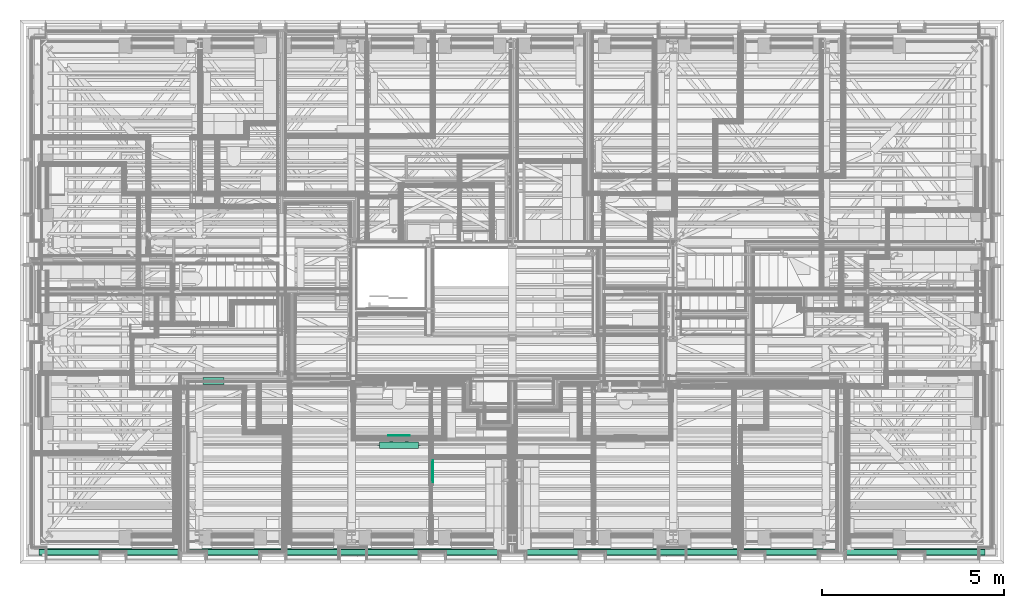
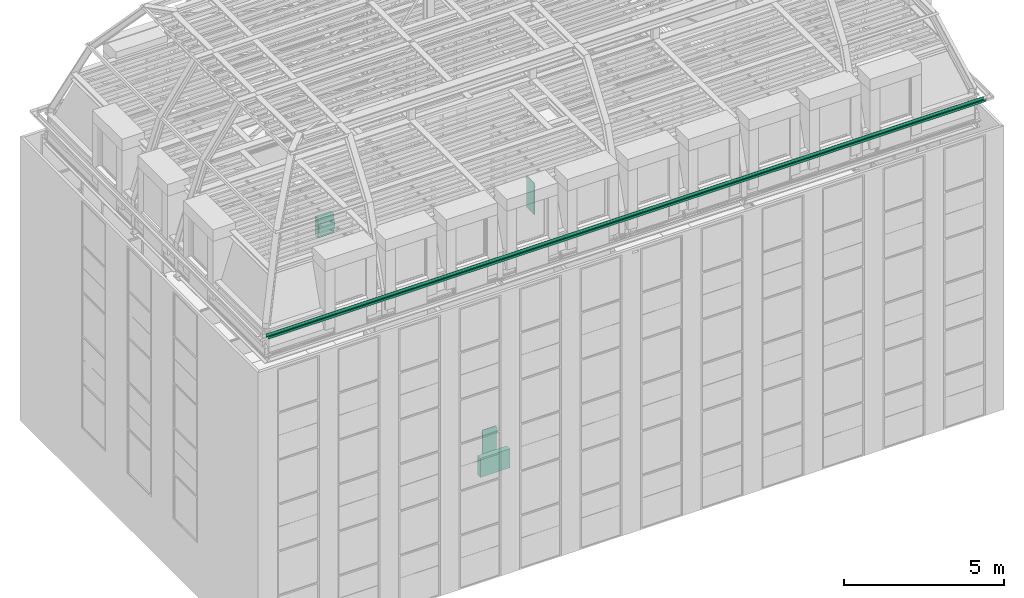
# One storey, part 160 of 183: 4 flow terminals, 1 flow fitting.
"""IFC2X3 building model written with IfcOpenShell, lengths in metres."""

from ifc_helpers import new_model, entity, si_unit, converted_unit, derived_unit, money_unit, direction, frame, origin_with_axes, place, context, subcontext, project, spatial, open_shell, faceted_brep, surface_model, material, type_object, element, save


model = new_model("IFC2X3")

# Units and contexts
model_context = context("Model", 3, precision=1e-05, world=origin_with_axes(), true_north=direction((0.0, 1.0)))
body_context = subcontext(model_context, "Body", "Model", "MODEL_VIEW", scale=1.0)
ifc_project = project(units=[si_unit("LENGTHUNIT", "METRE"), si_unit("AREAUNIT", "SQUARE_METRE"), si_unit("VOLUMEUNIT", "CUBIC_METRE"), si_unit("ABSORBEDDOSEUNIT", "GRAY"), si_unit("AMOUNTOFSUBSTANCEUNIT", "MOLE"), si_unit("DOSEEQUIVALENTUNIT", "SIEVERT"), si_unit("ELECTRICCAPACITANCEUNIT", "FARAD"), si_unit("ELECTRICCHARGEUNIT", "COULOMB"), si_unit("ELECTRICCONDUCTANCEUNIT", "SIEMENS"), si_unit("ELECTRICCURRENTUNIT", "AMPERE"), si_unit("ELECTRICRESISTANCEUNIT", "OHM"), si_unit("ELECTRICVOLTAGEUNIT", "VOLT"), si_unit("ENERGYUNIT", "JOULE"), si_unit("FORCEUNIT", "NEWTON"), si_unit("FREQUENCYUNIT", "HERTZ"), si_unit("ILLUMINANCEUNIT", "LUX"), si_unit("INDUCTANCEUNIT", "HENRY"), si_unit("LUMINOUSFLUXUNIT", "LUMEN"), si_unit("LUMINOUSINTENSITYUNIT", "CANDELA"), si_unit("MAGNETICFLUXDENSITYUNIT", "TESLA"), si_unit("MAGNETICFLUXUNIT", "WEBER"), si_unit("MASSUNIT", "GRAM"), converted_unit("PLANEANGLEUNIT", "degree", entity("IfcReal", 0.0174532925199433), si_unit("PLANEANGLEUNIT", "RADIAN"), dimensions=[0, 0, 0, 0, 0, 0, 0]), si_unit("POWERUNIT", "WATT"), si_unit("PRESSUREUNIT", "PASCAL"), si_unit("RADIOACTIVITYUNIT", "BECQUEREL"), si_unit("SOLIDANGLEUNIT", "STERADIAN"), si_unit("THERMODYNAMICTEMPERATUREUNIT", "KELVIN"), si_unit("TIMEUNIT", "SECOND"), derived_unit("ACCELERATIONUNIT", [(si_unit("LENGTHUNIT", "METRE"), 1), (si_unit("TIMEUNIT", "SECOND"), -2)]), derived_unit("ANGULARVELOCITYUNIT", [(converted_unit("PLANEANGLEUNIT", "degree", entity("IfcReal", 0.0174532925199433), si_unit("PLANEANGLEUNIT", "RADIAN"), dimensions=[0, 0, 0, 0, 0, 0, 0]), 1), (si_unit("TIMEUNIT", "SECOND"), -1)]), derived_unit("CURVATUREUNIT", [(converted_unit("PLANEANGLEUNIT", "degree", entity("IfcReal", 0.0174532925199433), si_unit("PLANEANGLEUNIT", "RADIAN"), dimensions=[0, 0, 0, 0, 0, 0, 0]), 1), (si_unit("LENGTHUNIT", "METRE"), -1)]), derived_unit("DYNAMICVISCOSITYUNIT", [(si_unit("PRESSUREUNIT", "PASCAL"), 1), (si_unit("TIMEUNIT", "SECOND"), 1)]), derived_unit("HEATFLUXDENSITYUNIT", [(si_unit("POWERUNIT", "WATT"), 1), (si_unit("LENGTHUNIT", "METRE"), -2)]), derived_unit("HEATINGVALUEUNIT", [(si_unit("ENERGYUNIT", "JOULE"), 1), (si_unit("MASSUNIT", "GRAM"), -1)]), derived_unit("INTEGERCOUNTRATEUNIT", [(si_unit("TIMEUNIT", "SECOND"), -1)]), derived_unit("IONCONCENTRATIONUNIT", [(si_unit("MASSUNIT", "GRAM"), 1), (si_unit("VOLUMEUNIT", "CUBIC_METRE"), -1)]), derived_unit("ISOTHERMALMOISTURECAPACITYUNIT", [(si_unit("VOLUMEUNIT", "CUBIC_METRE"), 1), (si_unit("MASSUNIT", "GRAM"), -1)]), derived_unit("KINEMATICVISCOSITYUNIT", [(si_unit("AREAUNIT", "SQUARE_METRE"), 1), (si_unit("TIMEUNIT", "SECOND"), -1)]), derived_unit("LINEARFORCEUNIT", [(si_unit("FORCEUNIT", "NEWTON"), 1), (si_unit("LENGTHUNIT", "METRE"), -1)]), derived_unit("LINEARMOMENTUNIT", [(si_unit("FORCEUNIT", "NEWTON"), 1), (si_unit("LENGTHUNIT", "METRE"), -1)]), derived_unit("LINEARSTIFFNESSUNIT", [(si_unit("FORCEUNIT", "NEWTON"), 1), (si_unit("LENGTHUNIT", "METRE"), -1)]), derived_unit("LINEARVELOCITYUNIT", [(si_unit("LENGTHUNIT", "METRE"), 1), (si_unit("TIMEUNIT", "SECOND"), -1)]), derived_unit("LUMINOUSINTENSITYDISTRIBUTIONUNIT", [(si_unit("LUMINOUSINTENSITYUNIT", "CANDELA"), 1), (si_unit("LUMINOUSFLUXUNIT", "LUMEN"), -1)]), derived_unit("MASSDENSITYUNIT", [(si_unit("MASSUNIT", "GRAM"), 1), (si_unit("VOLUMEUNIT", "CUBIC_METRE"), -1)]), derived_unit("MASSFLOWRATEUNIT", [(si_unit("MASSUNIT", "GRAM"), 1), (si_unit("TIMEUNIT", "SECOND"), -1)]), derived_unit("MASSPERLENGTHUNIT", [(si_unit("MASSUNIT", "GRAM"), 1), (si_unit("LENGTHUNIT", "METRE"), -1)]), derived_unit("MODULUSOFELASTICITYUNIT", [(si_unit("FORCEUNIT", "NEWTON"), 1), (si_unit("AREAUNIT", "SQUARE_METRE"), -1)]), derived_unit("MODULUSOFLINEARSUBGRADEREACTIONUNIT", [(si_unit("FORCEUNIT", "NEWTON"), 1), (si_unit("LENGTHUNIT", "METRE"), -2)]), derived_unit("MODULUSOFROTATIONALSUBGRADEREACTIONUNIT", [(si_unit("FORCEUNIT", "NEWTON"), 1), (si_unit("LENGTHUNIT", "METRE"), 1)]), derived_unit("MODULUSOFSUBGRADEREACTIONUNIT", [(si_unit("FORCEUNIT", "NEWTON"), 1), (si_unit("VOLUMEUNIT", "CUBIC_METRE"), -1)]), derived_unit("MOISTUREDIFFUSIVITYUNIT", [(si_unit("VOLUMEUNIT", "CUBIC_METRE"), 1), (si_unit("TIMEUNIT", "SECOND"), -1)]), derived_unit("MOLECULARWEIGHTUNIT", [(si_unit("MASSUNIT", "GRAM"), 1), (si_unit("AMOUNTOFSUBSTANCEUNIT", "MOLE"), -1)]), derived_unit("PLANARFORCEUNIT", [(si_unit("FORCEUNIT", "NEWTON"), 1), (si_unit("LENGTHUNIT", "METRE"), -2)]), derived_unit("ROTATIONALFREQUENCYUNIT", [(si_unit("TIMEUNIT", "SECOND"), -1)]), derived_unit("ROTATIONALMASSUNIT", [(si_unit("MASSUNIT", "GRAM"), 1), (si_unit("LENGTHUNIT", "METRE"), 2)]), derived_unit("ROTATIONALSTIFFNESSUNIT", [(si_unit("FORCEUNIT", "NEWTON"), 1), (si_unit("LENGTHUNIT", "METRE"), 1), (converted_unit("PLANEANGLEUNIT", "degree", entity("IfcReal", 0.0174532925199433), si_unit("PLANEANGLEUNIT", "RADIAN"), dimensions=[0, 0, 0, 0, 0, 0, 0]), -1)]), derived_unit("SECTIONAREAINTEGRALUNIT", [(si_unit("LENGTHUNIT", "METRE"), 5)]), derived_unit("SECTIONMODULUSUNIT", [(si_unit("LENGTHUNIT", "METRE"), 3)]), derived_unit("SHEARMODULUSUNIT", [(si_unit("FORCEUNIT", "NEWTON"), 1), (si_unit("AREAUNIT", "SQUARE_METRE"), -1)]), derived_unit("SOUNDPOWERUNIT", [(si_unit("ENERGYUNIT", "JOULE"), 1), (si_unit("TIMEUNIT", "SECOND"), -1)]), derived_unit("SPECIFICHEATCAPACITYUNIT", [(si_unit("FORCEUNIT", "NEWTON"), 1), (si_unit("MASSUNIT", "GRAM"), -1), (si_unit("THERMODYNAMICTEMPERATUREUNIT", "KELVIN"), -1)]), derived_unit("TEMPERATUREGRADIENTUNIT", [(si_unit("THERMODYNAMICTEMPERATUREUNIT", "KELVIN"), 1), (si_unit("LENGTHUNIT", "METRE"), -1)]), derived_unit("THERMALADMITTANCEUNIT", [(si_unit("POWERUNIT", "WATT"), 1), (si_unit("AREAUNIT", "SQUARE_METRE"), -1), (si_unit("THERMODYNAMICTEMPERATUREUNIT", "KELVIN"), -1)]), derived_unit("THERMALCONDUCTANCEUNIT", [(si_unit("POWERUNIT", "WATT"), 1), (si_unit("LENGTHUNIT", "METRE"), -1), (si_unit("THERMODYNAMICTEMPERATUREUNIT", "KELVIN"), -1)]), derived_unit("THERMALEXPANSIONCOEFFICIENTUNIT", [(si_unit("THERMODYNAMICTEMPERATUREUNIT", "KELVIN"), -1)]), derived_unit("THERMALRESISTANCEUNIT", [(si_unit("AREAUNIT", "SQUARE_METRE"), 1), (si_unit("POWERUNIT", "WATT"), -1)]), derived_unit("THERMALTRANSMITTANCEUNIT", [(si_unit("POWERUNIT", "WATT"), 1), (si_unit("AREAUNIT", "SQUARE_METRE"), -1), (si_unit("THERMODYNAMICTEMPERATUREUNIT", "KELVIN"), -1)]), derived_unit("TORQUEUNIT", [(si_unit("FORCEUNIT", "NEWTON"), 1), (si_unit("LENGTHUNIT", "METRE"), 1)]), derived_unit("VAPORPERMEABILITYUNIT", [(si_unit("MASSUNIT", "GRAM"), 1), (si_unit("TIMEUNIT", "SECOND"), -1)]), derived_unit("VOLUMETRICFLOWRATEUNIT", [(si_unit("VOLUMEUNIT", "CUBIC_METRE"), 1), (si_unit("TIMEUNIT", "SECOND"), -1)]), derived_unit("WARPINGCONSTANTUNIT", [(si_unit("LENGTHUNIT", "METRE"), 6)]), derived_unit("WARPINGMOMENTUNIT", [(si_unit("FORCEUNIT", "NEWTON"), 1), (si_unit("LENGTHUNIT", "METRE"), 2)]), money_unit("GBP")], contexts=[model_context])

# Site, building, storey
site_placement = place(None, origin_with_axes())
site = spatial("IfcSite", under=ifc_project, at=site_placement, Name="Site", CompositionType="ELEMENT")
building_placement = place(site_placement, origin_with_axes())
building = spatial("IfcBuilding", under=site, at=building_placement, Name="Building01", CompositionType="ELEMENT")
storey_placement = place(building_placement, frame((0.0, 0.0, 5.15), z_axis=(0.0, 0.0, 1.0), x_axis=(1.0, 0.0, 0.0)))
storey = spatial("IfcBuildingStorey", under=building, at=storey_placement, Name="1F", CompositionType="ELEMENT", Elevation=5.15)

# Flow fitting
ifc_material_1 = material(Name="A_BSUK_RainwaterDrainageSystems")
pipe_fitting_type = type_object("IfcPipeFittingType", Name="A-RainwaterDrainageSystems-GutterStraight", PredefinedType="NOTDEFINED")
flow_fitting_placement = place(storey_placement, frame((0.514653, 0.214346, 10.629268), z_axis=(0.0, 0.0, 1.0), x_axis=(1.0, 0.0, 0.0)))
element("IfcFlowFitting", 1, at=flow_fitting_placement, inside=storey, type_object=pipe_fitting_type, material=ifc_material_1, Name="A-RainwaterDrainageSystems-GutterStraight", ObjectType="A-RainwaterDrainageSystems-GutterStraight", context=body_context, shape_type="Brep", body=[
    faceted_brep([(25.951001, 0.0, 0.100732), (1e-06, 0.0, 0.100732), (1e-06, 0.0, 0.099144), (25.951001, 0.0, 0.099145), (25.951001, 0.005654, 0.099145), (1e-06, 0.005654, 0.099144), (1e-06, 0.018707, 0.0), (25.951001, 0.018707, 0.0), (1e-06, 0.170099, 0.0), (25.951001, 0.170099, 0.0), (1e-06, 0.183152, 0.099144), (25.951001, 0.183152, 0.099145), (1e-06, 0.188806, 0.099144), (25.951001, 0.188806, 0.099145), (1e-06, 0.188806, 0.100732), (25.951001, 0.188806, 0.100732), (1e-06, 0.18176, 0.100732), (25.951001, 0.18176, 0.100732), (1e-06, 0.168707, 0.001588), (25.951001, 0.168707, 0.001588), (1e-06, 0.020099, 0.001588), (25.951001, 0.020099, 0.001588), (1e-06, 0.007047, 0.100732), (25.951001, 0.007047, 0.100732)], [[[0, 1, 2, 3]], [[4, 5, 6, 7]], [[7, 6, 8, 9]], [[9, 8, 10, 11]], [[11, 10, 12, 13]], [[13, 12, 14, 15]], [[15, 14, 16, 17]], [[17, 16, 18, 19]], [[19, 18, 20, 21]], [[21, 20, 22, 23]], [[23, 22, 1, 0]], [[3, 4, 7, 9, 11, 13, 15, 17, 19, 21, 23, 0]], [[3, 2, 5, 4]], [[1, 22, 20, 18, 16, 14, 12, 10, 8, 6, 5, 2]]]),
])

# Space
space_1_placement = place(storey_placement, frame((12.15, 4.98, 0.017975), z_axis=(0.0, 0.0, 1.0), x_axis=(-1.0, 0.0, 0.0)))
space_1 = spatial("IfcSpace", under=storey, at=space_1_placement, Name="05", CompositionType="ELEMENT", InteriorOrExteriorSpace="NOTDEFINED")

# Flow terminal
ifc_material_2 = material(Name="M_BSUK_Ventilation")
space_heater_type_1 = type_object("IfcSpaceHeaterType", Name="M-BmvRadiatorpanel-Panel", PredefinedType="NOTDEFINED")
flow_terminal_1_placement = place(storey_placement, frame((10.927036, 3.23975, 0.665), z_axis=(0.0, 0.0, 1.0), x_axis=(1.0, 0.0, 0.0)))
element("IfcFlowTerminal", 2, at=flow_terminal_1_placement, inside=space_1, type_object=space_heater_type_1, material=ifc_material_2, Name="M-BmvRadiatorpanel-Panel", ObjectType="M-BmvRadiatorpanel-Panel", context=body_context, shape_type="SurfaceModel", body=[
    surface_model("IfcShellBasedSurfaceModel", [(-1.069, -0.0925, 0.365), (-1.069, 0.0925, 0.365), (0.0, 0.0925, 0.365), (0.0, -0.0925, 0.365), (-1.069, -0.0925, -0.365), (-1.069, 0.0925, -0.365), (0.0, -0.0925, -0.365), (0.0, 0.0925, -0.365), (-0.2345, 0.12025, 0.175), (-0.8345, 0.12025, 0.175), (-0.8345, 0.14525, 0.175), (-0.2345, 0.14525, 0.175), (-0.8345, 0.14525, -0.175), (-0.2345, 0.14525, -0.175), (-0.8345, 0.12025, -0.175), (-0.2345, 0.12025, -0.175), (-0.3245, 0.0925, 0.0775), (-0.3245, 0.12025, 0.0775), (-0.307279, 0.12025, 0.080925), (-0.307279, 0.0925, 0.080925), (-0.29268, 0.12025, 0.09068), (-0.29268, 0.0925, 0.09068), (-0.282925, 0.12025, 0.105279), (-0.282925, 0.0925, 0.105279), (-0.2795, 0.12025, 0.1225), (-0.2795, 0.0925, 0.1225), (-0.282925, 0.12025, 0.139721), (-0.282925, 0.0925, 0.139721), (-0.29268, 0.12025, 0.15432), (-0.29268, 0.0925, 0.15432), (-0.307279, 0.12025, 0.164075), (-0.307279, 0.0925, 0.164075), (-0.3245, 0.12025, 0.1675), (-0.3245, 0.0925, 0.1675), (-0.341721, 0.12025, 0.164075), (-0.341721, 0.0925, 0.164075), (-0.35632, 0.12025, 0.15432), (-0.35632, 0.0925, 0.15432), (-0.366075, 0.12025, 0.139721), (-0.366075, 0.0925, 0.139721), (-0.3695, 0.12025, 0.1225), (-0.3695, 0.0925, 0.1225), (-0.366075, 0.12025, 0.105279), (-0.366075, 0.0925, 0.105279), (-0.35632, 0.12025, 0.09068), (-0.35632, 0.0925, 0.09068), (-0.341721, 0.12025, 0.080925), (-0.341721, 0.0925, 0.080925), (-0.7445, 0.0925, 0.0775), (-0.7445, 0.12025, 0.0775), (-0.727279, 0.12025, 0.080925), (-0.727279, 0.0925, 0.080925), (-0.71268, 0.12025, 0.09068), (-0.71268, 0.0925, 0.09068), (-0.702925, 0.12025, 0.105279), (-0.702925, 0.0925, 0.105279), (-0.6995, 0.12025, 0.1225), (-0.6995, 0.0925, 0.1225), (-0.702925, 0.12025, 0.139721), (-0.702925, 0.0925, 0.139721), (-0.71268, 0.12025, 0.15432), (-0.71268, 0.0925, 0.15432), (-0.727279, 0.12025, 0.164075), (-0.727279, 0.0925, 0.164075), (-0.7445, 0.12025, 0.1675), (-0.7445, 0.0925, 0.1675), (-0.761721, 0.12025, 0.164075), (-0.761721, 0.0925, 0.164075), (-0.77632, 0.12025, 0.15432), (-0.77632, 0.0925, 0.15432), (-0.786075, 0.12025, 0.139721), (-0.786075, 0.0925, 0.139721), (-0.7895, 0.12025, 0.1225), (-0.7895, 0.0925, 0.1225), (-0.786075, 0.12025, 0.105279), (-0.786075, 0.0925, 0.105279), (-0.77632, 0.12025, 0.09068), (-0.77632, 0.0925, 0.09068), (-0.761721, 0.12025, 0.080925), (-0.761721, 0.0925, 0.080925), (0.05, 0.0, -0.0225), (0.0, 0.0, -0.0225), (0.0, 0.004784, -0.021548), (0.05, 0.004784, -0.021548), (0.0, 0.008839, -0.018839), (0.05, 0.008839, -0.018839), (0.0, 0.011548, -0.014784), (0.05, 0.011548, -0.014784), (0.0, 0.0125, -0.01), (0.05, 0.0125, -0.01), (0.0, 0.011548, -0.005216), (0.05, 0.011548, -0.005216), (0.0, 0.008839, -0.001161), (0.05, 0.008839, -0.001161), (0.0, 0.004784, 0.001548), (0.05, 0.004784, 0.001548), (0.0, 0.0, 0.0025), (0.05, 0.0, 0.0025), (0.0, -0.004784, 0.001548), (0.05, -0.004784, 0.001548), (0.0, -0.008839, -0.001161), (0.05, -0.008839, -0.001161), (0.0, -0.011548, -0.005216), (0.05, -0.011548, -0.005216), (0.0, -0.0125, -0.01), (0.05, -0.0125, -0.01), (0.0, -0.011548, -0.014784), (0.05, -0.011548, -0.014784), (0.0, -0.008839, -0.018839), (0.05, -0.008839, -0.018839), (0.0, -0.004784, -0.021548), (0.05, -0.004784, -0.021548), (-1.119, 0.0, 0.2525), (-1.069, 0.0, 0.2525), (-1.069, -0.004784, 0.253452), (-1.119, -0.004784, 0.253452), (-1.069, -0.008839, 0.256161), (-1.119, -0.008839, 0.256161), (-1.069, -0.011548, 0.260216), (-1.119, -0.011548, 0.260216), (-1.069, -0.0125, 0.265), (-1.119, -0.0125, 0.265), (-1.069, -0.011548, 0.269784), (-1.119, -0.011548, 0.269784), (-1.069, -0.008839, 0.273839), (-1.119, -0.008839, 0.273839), (-1.069, -0.004784, 0.276548), (-1.119, -0.004784, 0.276548), (-1.069, 0.0, 0.2775), (-1.119, 0.0, 0.2775), (-1.069, 0.004784, 0.276548), (-1.119, 0.004784, 0.276548), (-1.069, 0.008839, 0.273839), (-1.119, 0.008839, 0.273839), (-1.069, 0.011548, 0.269784), (-1.119, 0.011548, 0.269784), (-1.069, 0.0125, 0.265), (-1.119, 0.0125, 0.265), (-1.069, 0.011548, 0.260216), (-1.119, 0.011548, 0.260216), (-1.069, 0.008839, 0.256161), (-1.119, 0.008839, 0.256161), (-1.069, 0.004784, 0.253452), (-1.119, 0.004784, 0.253452)], [open_shell([[[0, 1, 2, 3]], [[4, 5, 1, 0]], [[6, 7, 5, 4]], [[3, 2, 7, 6]], [[1, 5, 7, 2]], [[3, 6, 4, 0]], [[8, 9, 10, 11]], [[11, 10, 12, 13]], [[13, 12, 14, 15]], [[15, 14, 9, 8]], [[9, 14, 12, 10]], [[11, 13, 15, 8]], [[16, 17, 18, 19]], [[19, 18, 20, 21]], [[21, 20, 22, 23]], [[23, 22, 24, 25]], [[25, 24, 26, 27]], [[27, 26, 28, 29]], [[29, 28, 30, 31]], [[31, 30, 32, 33]], [[33, 32, 34, 35]], [[35, 34, 36, 37]], [[37, 36, 38, 39]], [[39, 38, 40, 41]], [[41, 40, 42, 43]], [[43, 42, 44, 45]], [[45, 44, 46, 47]], [[47, 46, 17, 16]], [[48, 49, 50, 51]], [[51, 50, 52, 53]], [[53, 52, 54, 55]], [[55, 54, 56, 57]], [[57, 56, 58, 59]], [[59, 58, 60, 61]], [[61, 60, 62, 63]], [[63, 62, 64, 65]], [[65, 64, 66, 67]], [[67, 66, 68, 69]], [[69, 68, 70, 71]], [[71, 70, 72, 73]], [[73, 72, 74, 75]], [[75, 74, 76, 77]], [[77, 76, 78, 79]], [[79, 78, 49, 48]], [[80, 81, 82, 83]], [[83, 82, 84, 85]], [[85, 84, 86, 87]], [[87, 86, 88, 89]], [[89, 88, 90, 91]], [[91, 90, 92, 93]], [[93, 92, 94, 95]], [[95, 94, 96, 97]], [[97, 96, 98, 99]], [[99, 98, 100, 101]], [[101, 100, 102, 103]], [[103, 102, 104, 105]], [[105, 104, 106, 107]], [[107, 106, 108, 109]], [[109, 108, 110, 111]], [[111, 110, 81, 80]], [[112, 113, 114, 115]], [[115, 114, 116, 117]], [[117, 116, 118, 119]], [[119, 118, 120, 121]], [[121, 120, 122, 123]], [[123, 122, 124, 125]], [[125, 124, 126, 127]], [[127, 126, 128, 129]], [[129, 128, 130, 131]], [[131, 130, 132, 133]], [[133, 132, 134, 135]], [[135, 134, 136, 137]], [[137, 136, 138, 139]], [[139, 138, 140, 141]], [[141, 140, 142, 143]], [[143, 142, 113, 112]]])]),
])

# Space
space_2_placement = place(storey_placement, frame((12.175, 4.189428, 9.81), z_axis=(0.0, 0.0, 1.0), x_axis=(0.0, 1.0, 0.0)))
space_2 = spatial("IfcSpace", under=storey, at=space_2_placement, Name="25", CompositionType="ELEMENT", InteriorOrExteriorSpace="NOTDEFINED")

# Flow terminals
flow_terminal_2_placement = place(storey_placement, frame((5.596128, 5.005189, 10.445), z_axis=(0.0, 0.0, 1.0), x_axis=(-1.0, 0.0, 0.0)))
element("IfcFlowTerminal", 3, at=flow_terminal_2_placement, inside=space_2, type_object=space_heater_type_1, material=ifc_material_2, Name="M-BmvRadiatorpanel-Panel", ObjectType="M-BmvRadiatorpanel-Panel", context=body_context, shape_type="SurfaceModel", body=[
    surface_model("IfcShellBasedSurfaceModel", [(0.58, -0.0925, 0.365), (0.58, 0.0925, 0.365), (0.0, 0.0925, 0.365), (0.0, -0.0925, 0.365), (0.58, -0.0925, -0.365), (0.58, 0.0925, -0.365), (0.0, -0.0925, -0.365), (0.0, 0.0925, -0.365), (0.0, 0.12025, 0.175), (0.58, 0.12025, 0.175), (0.58, 0.14525, 0.175), (0.0, 0.14525, 0.175), (0.58, 0.14525, -0.175), (0.0, 0.14525, -0.175), (0.58, 0.12025, -0.175), (0.0, 0.12025, -0.175), (0.087, 0.0925, 0.079), (0.087, 0.12025, 0.079), (0.103647, 0.12025, 0.082311), (0.103647, 0.0925, 0.082311), (0.117759, 0.12025, 0.091741), (0.117759, 0.0925, 0.091741), (0.127189, 0.12025, 0.105853), (0.127189, 0.0925, 0.105853), (0.1305, 0.12025, 0.1225), (0.1305, 0.0925, 0.1225), (0.127189, 0.12025, 0.139147), (0.127189, 0.0925, 0.139147), (0.117759, 0.12025, 0.153259), (0.117759, 0.0925, 0.153259), (0.103647, 0.12025, 0.162689), (0.103647, 0.0925, 0.162689), (0.087, 0.12025, 0.166), (0.087, 0.0925, 0.166), (0.070353, 0.12025, 0.162689), (0.070353, 0.0925, 0.162689), (0.056241, 0.12025, 0.153259), (0.056241, 0.0925, 0.153259), (0.046811, 0.12025, 0.139147), (0.046811, 0.0925, 0.139147), (0.0435, 0.12025, 0.1225), (0.0435, 0.0925, 0.1225), (0.046811, 0.12025, 0.105853), (0.046811, 0.0925, 0.105853), (0.056241, 0.12025, 0.091741), (0.056241, 0.0925, 0.091741), (0.070353, 0.12025, 0.082311), (0.070353, 0.0925, 0.082311), (0.493, 0.0925, 0.079), (0.493, 0.12025, 0.079), (0.509647, 0.12025, 0.082311), (0.509647, 0.0925, 0.082311), (0.523759, 0.12025, 0.091741), (0.523759, 0.0925, 0.091741), (0.533189, 0.12025, 0.105853), (0.533189, 0.0925, 0.105853), (0.5365, 0.12025, 0.1225), (0.5365, 0.0925, 0.1225), (0.533189, 0.12025, 0.139147), (0.533189, 0.0925, 0.139147), (0.523759, 0.12025, 0.153259), (0.523759, 0.0925, 0.153259), (0.509647, 0.12025, 0.162689), (0.509647, 0.0925, 0.162689), (0.493, 0.12025, 0.166), (0.493, 0.0925, 0.166), (0.476353, 0.12025, 0.162689), (0.476353, 0.0925, 0.162689), (0.462241, 0.12025, 0.153259), (0.462241, 0.0925, 0.153259), (0.452811, 0.12025, 0.139147), (0.452811, 0.0925, 0.139147), (0.4495, 0.12025, 0.1225), (0.4495, 0.0925, 0.1225), (0.452811, 0.12025, 0.105853), (0.452811, 0.0925, 0.105853), (0.462241, 0.12025, 0.091741), (0.462241, 0.0925, 0.091741), (0.476353, 0.12025, 0.082311), (0.476353, 0.0925, 0.082311), (-0.05, 0.0, -0.0225), (0.0, 0.0, -0.0225), (0.0, -0.004784, -0.021548), (-0.05, -0.004784, -0.021548), (0.0, -0.008839, -0.018839), (-0.05, -0.008839, -0.018839), (0.0, -0.011548, -0.014784), (-0.05, -0.011548, -0.014784), (0.0, -0.0125, -0.01), (-0.05, -0.0125, -0.01), (0.0, -0.011548, -0.005216), (-0.05, -0.011548, -0.005216), (0.0, -0.008839, -0.001161), (-0.05, -0.008839, -0.001161), (0.0, -0.004784, 0.001548), (-0.05, -0.004784, 0.001548), (0.0, 0.0, 0.0025), (-0.05, 0.0, 0.0025), (0.0, 0.004784, 0.001548), (-0.05, 0.004784, 0.001548), (0.0, 0.008839, -0.001161), (-0.05, 0.008839, -0.001161), (0.0, 0.011548, -0.005216), (-0.05, 0.011548, -0.005216), (0.0, 0.0125, -0.01), (-0.05, 0.0125, -0.01), (0.0, 0.011548, -0.014784), (-0.05, 0.011548, -0.014784), (0.0, 0.008839, -0.018839), (-0.05, 0.008839, -0.018839), (0.0, 0.004784, -0.021548), (-0.05, 0.004784, -0.021548), (0.63, 0.0, 0.2525), (0.58, 0.0, 0.2525), (0.58, 0.004784, 0.253452), (0.63, 0.004784, 0.253452), (0.58, 0.008839, 0.256161), (0.63, 0.008839, 0.256161), (0.58, 0.011548, 0.260216), (0.63, 0.011548, 0.260216), (0.58, 0.0125, 0.265), (0.63, 0.0125, 0.265), (0.58, 0.011548, 0.269784), (0.63, 0.011548, 0.269784), (0.58, 0.008839, 0.273839), (0.63, 0.008839, 0.273839), (0.58, 0.004784, 0.276548), (0.63, 0.004784, 0.276548), (0.58, 0.0, 0.2775), (0.63, 0.0, 0.2775), (0.58, -0.004784, 0.276548), (0.63, -0.004784, 0.276548), (0.58, -0.008839, 0.273839), (0.63, -0.008839, 0.273839), (0.58, -0.011548, 0.269784), (0.63, -0.011548, 0.269784), (0.58, -0.0125, 0.265), (0.63, -0.0125, 0.265), (0.58, -0.011548, 0.260216), (0.63, -0.011548, 0.260216), (0.58, -0.008839, 0.256161), (0.63, -0.008839, 0.256161), (0.58, -0.004784, 0.253452), (0.63, -0.004784, 0.253452)], [open_shell([[[0, 1, 2, 3]], [[4, 5, 1, 0]], [[6, 7, 5, 4]], [[3, 2, 7, 6]], [[1, 5, 7, 2]], [[3, 6, 4, 0]], [[8, 9, 10, 11]], [[11, 10, 12, 13]], [[13, 12, 14, 15]], [[15, 14, 9, 8]], [[9, 14, 12, 10]], [[11, 13, 15, 8]], [[16, 17, 18, 19]], [[19, 18, 20, 21]], [[21, 20, 22, 23]], [[23, 22, 24, 25]], [[25, 24, 26, 27]], [[27, 26, 28, 29]], [[29, 28, 30, 31]], [[31, 30, 32, 33]], [[33, 32, 34, 35]], [[35, 34, 36, 37]], [[37, 36, 38, 39]], [[39, 38, 40, 41]], [[41, 40, 42, 43]], [[43, 42, 44, 45]], [[45, 44, 46, 47]], [[47, 46, 17, 16]], [[48, 49, 50, 51]], [[51, 50, 52, 53]], [[53, 52, 54, 55]], [[55, 54, 56, 57]], [[57, 56, 58, 59]], [[59, 58, 60, 61]], [[61, 60, 62, 63]], [[63, 62, 64, 65]], [[65, 64, 66, 67]], [[67, 66, 68, 69]], [[69, 68, 70, 71]], [[71, 70, 72, 73]], [[73, 72, 74, 75]], [[75, 74, 76, 77]], [[77, 76, 78, 79]], [[79, 78, 49, 48]], [[80, 81, 82, 83]], [[83, 82, 84, 85]], [[85, 84, 86, 87]], [[87, 86, 88, 89]], [[89, 88, 90, 91]], [[91, 90, 92, 93]], [[93, 92, 94, 95]], [[95, 94, 96, 97]], [[97, 96, 98, 99]], [[99, 98, 100, 101]], [[101, 100, 102, 103]], [[103, 102, 104, 105]], [[105, 104, 106, 107]], [[107, 106, 108, 109]], [[109, 108, 110, 111]], [[111, 110, 81, 80]], [[112, 113, 114, 115]], [[115, 114, 116, 117]], [[117, 116, 118, 119]], [[119, 118, 120, 121]], [[121, 120, 122, 123]], [[123, 122, 124, 125]], [[125, 124, 126, 127]], [[127, 126, 128, 129]], [[129, 128, 130, 131]], [[131, 130, 132, 133]], [[133, 132, 134, 135]], [[135, 134, 136, 137]], [[137, 136, 138, 139]], [[139, 138, 140, 141]], [[141, 140, 142, 143]], [[143, 142, 113, 112]]])]),
])
space_heater_type_2 = type_object("IfcSpaceHeaterType", Name="M-BmvRadiator-Column", PredefinedType="NOTDEFINED")
flow_terminal_3_placement = place(storey_placement, frame((10.642536, 3.5075, 1.2), z_axis=(0.0, 0.0, 1.0), x_axis=(1.0, 0.0, 0.0)))
element("IfcFlowTerminal", 4, at=flow_terminal_3_placement, inside=space_1, type_object=space_heater_type_2, material=ifc_material_2, Name="M-BmvRadiator-Column", ObjectType="M-BmvRadiator-Column", context=body_context, shape_type="SurfaceModel", body=[
    surface_model("IfcShellBasedSurfaceModel", [(0.0, -0.0125, 0.6), (0.0, -0.0125, -0.6), (0.0, 0.0125, -0.6), (0.0, 0.0125, 0.6), (-0.5, -0.0125, 0.6), (-0.5, -0.0125, -0.6), (-0.5, 0.0125, -0.6), (-0.5, 0.0125, 0.6), (-0.1, 0.0125, 0.6), (-0.1, -0.0125, 0.6), (-0.1, -0.0125, -0.6), (-0.1, 0.0125, -0.6), (-0.2, 0.0125, 0.6), (-0.2, -0.0125, 0.6), (-0.2, -0.0125, -0.6), (-0.2, 0.0125, -0.6), (-0.3, 0.0125, 0.6), (-0.3, -0.0125, 0.6), (-0.3, -0.0125, -0.6), (-0.3, 0.0125, -0.6), (-0.4, 0.0125, 0.6), (-0.4, -0.0125, 0.6), (-0.4, -0.0125, -0.6), (-0.4, 0.0125, -0.6), (0.05, 0.0, 0.4825), (0.0, 0.0, 0.4825), (0.0, 0.003827, 0.483261), (0.05, 0.003827, 0.483261), (0.0, 0.007071, 0.485429), (0.05, 0.007071, 0.485429), (0.0, 0.009239, 0.488673), (0.05, 0.009239, 0.488673), (0.0, 0.01, 0.4925), (0.05, 0.01, 0.4925), (0.0, 0.009239, 0.496327), (0.05, 0.009239, 0.496327), (0.0, 0.007071, 0.499571), (0.05, 0.007071, 0.499571), (0.0, 0.003827, 0.501739), (0.05, 0.003827, 0.501739), (0.0, 0.0, 0.5025), (0.05, 0.0, 0.5025), (0.0, -0.003827, 0.501739), (0.05, -0.003827, 0.501739), (0.0, -0.007071, 0.499571), (0.05, -0.007071, 0.499571), (0.0, -0.009239, 0.496327), (0.05, -0.009239, 0.496327), (0.0, -0.01, 0.4925), (0.05, -0.01, 0.4925), (0.0, -0.009239, 0.488673), (0.05, -0.009239, 0.488673), (0.0, -0.007071, 0.485429), (0.05, -0.007071, 0.485429), (0.0, -0.003827, 0.483261), (0.05, -0.003827, 0.483261), (-0.55, 0.0, 0.4884), (-0.5, 0.0, 0.4884), (-0.5, -0.003827, 0.489161), (-0.55, -0.003827, 0.489161), (-0.5, -0.007071, 0.491329), (-0.55, -0.007071, 0.491329), (-0.5, -0.009239, 0.494573), (-0.55, -0.009239, 0.494573), (-0.5, -0.01, 0.4984), (-0.55, -0.01, 0.4984), (-0.5, -0.009239, 0.502227), (-0.55, -0.009239, 0.502227), (-0.5, -0.007071, 0.505471), (-0.55, -0.007071, 0.505471), (-0.5, -0.003827, 0.507639), (-0.55, -0.003827, 0.507639), (-0.5, 0.0, 0.5084), (-0.55, 0.0, 0.5084), (-0.5, 0.003827, 0.507639), (-0.55, 0.003827, 0.507639), (-0.5, 0.007071, 0.505471), (-0.55, 0.007071, 0.505471), (-0.5, 0.009239, 0.502227), (-0.55, 0.009239, 0.502227), (-0.5, 0.01, 0.4984), (-0.55, 0.01, 0.4984), (-0.5, 0.009239, 0.494573), (-0.55, 0.009239, 0.494573), (-0.5, 0.007071, 0.491329), (-0.55, 0.007071, 0.491329), (-0.5, 0.003827, 0.489161), (-0.55, 0.003827, 0.489161)], [open_shell([[[0, 1, 2, 3]], [[4, 5, 6, 7]], [[8, 3, 0, 9]], [[9, 0, 1, 10]], [[10, 1, 2, 11]], [[11, 2, 3, 8]], [[12, 8, 9, 13]], [[13, 9, 10, 14]], [[14, 10, 11, 15]], [[15, 11, 8, 12]], [[16, 12, 13, 17]], [[17, 13, 14, 18]], [[18, 14, 15, 19]], [[19, 15, 12, 16]], [[20, 16, 17, 21]], [[21, 17, 18, 22]], [[22, 18, 19, 23]], [[23, 19, 16, 20]], [[7, 20, 21, 4]], [[4, 21, 22, 5]], [[5, 22, 23, 6]], [[6, 23, 20, 7]], [[24, 25, 26, 27]], [[27, 26, 28, 29]], [[29, 28, 30, 31]], [[31, 30, 32, 33]], [[33, 32, 34, 35]], [[35, 34, 36, 37]], [[37, 36, 38, 39]], [[39, 38, 40, 41]], [[41, 40, 42, 43]], [[43, 42, 44, 45]], [[45, 44, 46, 47]], [[47, 46, 48, 49]], [[49, 48, 50, 51]], [[51, 50, 52, 53]], [[53, 52, 54, 55]], [[55, 54, 25, 24]], [[56, 57, 58, 59]], [[59, 58, 60, 61]], [[61, 60, 62, 63]], [[63, 62, 64, 65]], [[65, 64, 66, 67]], [[67, 66, 68, 69]], [[69, 68, 70, 71]], [[71, 70, 72, 73]], [[73, 72, 74, 75]], [[75, 74, 76, 77]], [[77, 76, 78, 79]], [[79, 78, 80, 81]], [[81, 80, 82, 83]], [[83, 82, 84, 85]], [[85, 84, 86, 87]], [[87, 86, 57, 56]]])]),
])

# Space
space_3_placement = place(storey_placement, frame((11.31, 1.009621, 9.81), z_axis=(0.0, 0.0, 1.0), x_axis=(1.0, 0.0, 0.0)))
space_3 = spatial("IfcSpace", under=storey, at=space_3_placement, Name="ensuite", CompositionType="ELEMENT", InteriorOrExteriorSpace="NOTDEFINED")

# Flow terminal
flow_terminal_4_placement = place(storey_placement, frame((11.3225, 2.780835, 10.965), z_axis=(0.0, 0.0, 1.0), x_axis=(0.0, -1.0, 0.0)))
element("IfcFlowTerminal", 5, at=flow_terminal_4_placement, inside=space_3, type_object=space_heater_type_2, material=ifc_material_2, Name="M-BmvRadiator-Column", ObjectType="M-BmvRadiator-Column", context=body_context, shape_type="SurfaceModel", body=[
    surface_model("IfcShellBasedSurfaceModel", [(0.0, -0.0125, 0.6), (0.0, -0.0125, -0.6), (0.0, 0.0125, -0.6), (0.0, 0.0125, 0.6), (0.5, -0.0125, 0.6), (0.5, -0.0125, -0.6), (0.5, 0.0125, -0.6), (0.5, 0.0125, 0.6), (0.1, 0.0125, 0.6), (0.1, -0.0125, 0.6), (0.1, -0.0125, -0.6), (0.1, 0.0125, -0.6), (0.2, 0.0125, 0.6), (0.2, -0.0125, 0.6), (0.2, -0.0125, -0.6), (0.2, 0.0125, -0.6), (0.3, 0.0125, 0.6), (0.3, -0.0125, 0.6), (0.3, -0.0125, -0.6), (0.3, 0.0125, -0.6), (0.4, 0.0125, 0.6), (0.4, -0.0125, 0.6), (0.4, -0.0125, -0.6), (0.4, 0.0125, -0.6), (-0.05, 0.0, 0.4825), (0.0, 0.0, 0.4825), (0.0, -0.003827, 0.483261), (-0.05, -0.003827, 0.483261), (0.0, -0.007071, 0.485429), (-0.05, -0.007071, 0.485429), (0.0, -0.009239, 0.488673), (-0.05, -0.009239, 0.488673), (0.0, -0.01, 0.4925), (-0.05, -0.01, 0.4925), (0.0, -0.009239, 0.496327), (-0.05, -0.009239, 0.496327), (0.0, -0.007071, 0.499571), (-0.05, -0.007071, 0.499571), (0.0, -0.003827, 0.501739), (-0.05, -0.003827, 0.501739), (0.0, 0.0, 0.5025), (-0.05, 0.0, 0.5025), (0.0, 0.003827, 0.501739), (-0.05, 0.003827, 0.501739), (0.0, 0.007071, 0.499571), (-0.05, 0.007071, 0.499571), (0.0, 0.009239, 0.496327), (-0.05, 0.009239, 0.496327), (0.0, 0.01, 0.4925), (-0.05, 0.01, 0.4925), (0.0, 0.009239, 0.488673), (-0.05, 0.009239, 0.488673), (0.0, 0.007071, 0.485429), (-0.05, 0.007071, 0.485429), (0.0, 0.003827, 0.483261), (-0.05, 0.003827, 0.483261), (0.55, 0.0, 0.4884), (0.5, 0.0, 0.4884), (0.5, 0.003827, 0.489161), (0.55, 0.003827, 0.489161), (0.5, 0.007071, 0.491329), (0.55, 0.007071, 0.491329), (0.5, 0.009239, 0.494573), (0.55, 0.009239, 0.494573), (0.5, 0.01, 0.4984), (0.55, 0.01, 0.4984), (0.5, 0.009239, 0.502227), (0.55, 0.009239, 0.502227), (0.5, 0.007071, 0.505471), (0.55, 0.007071, 0.505471), (0.5, 0.003827, 0.507639), (0.55, 0.003827, 0.507639), (0.5, 0.0, 0.5084), (0.55, 0.0, 0.5084), (0.5, -0.003827, 0.507639), (0.55, -0.003827, 0.507639), (0.5, -0.007071, 0.505471), (0.55, -0.007071, 0.505471), (0.5, -0.009239, 0.502227), (0.55, -0.009239, 0.502227), (0.5, -0.01, 0.4984), (0.55, -0.01, 0.4984), (0.5, -0.009239, 0.494573), (0.55, -0.009239, 0.494573), (0.5, -0.007071, 0.491329), (0.55, -0.007071, 0.491329), (0.5, -0.003827, 0.489161), (0.55, -0.003827, 0.489161)], [open_shell([[[0, 1, 2, 3]], [[4, 5, 6, 7]], [[8, 3, 0, 9]], [[9, 0, 1, 10]], [[10, 1, 2, 11]], [[11, 2, 3, 8]], [[12, 8, 9, 13]], [[13, 9, 10, 14]], [[14, 10, 11, 15]], [[15, 11, 8, 12]], [[16, 12, 13, 17]], [[17, 13, 14, 18]], [[18, 14, 15, 19]], [[19, 15, 12, 16]], [[20, 16, 17, 21]], [[21, 17, 18, 22]], [[22, 18, 19, 23]], [[23, 19, 16, 20]], [[7, 20, 21, 4]], [[4, 21, 22, 5]], [[5, 22, 23, 6]], [[6, 23, 20, 7]], [[24, 25, 26, 27]], [[27, 26, 28, 29]], [[29, 28, 30, 31]], [[31, 30, 32, 33]], [[33, 32, 34, 35]], [[35, 34, 36, 37]], [[37, 36, 38, 39]], [[39, 38, 40, 41]], [[41, 40, 42, 43]], [[43, 42, 44, 45]], [[45, 44, 46, 47]], [[47, 46, 48, 49]], [[49, 48, 50, 51]], [[51, 50, 52, 53]], [[53, 52, 54, 55]], [[55, 54, 25, 24]], [[56, 57, 58, 59]], [[59, 58, 60, 61]], [[61, 60, 62, 63]], [[63, 62, 64, 65]], [[65, 64, 66, 67]], [[67, 66, 68, 69]], [[69, 68, 70, 71]], [[71, 70, 72, 73]], [[73, 72, 74, 75]], [[75, 74, 76, 77]], [[77, 76, 78, 79]], [[79, 78, 80, 81]], [[81, 80, 82, 83]], [[83, 82, 84, 85]], [[85, 84, 86, 87]], [[87, 86, 57, 56]]])]),
])

save(model, "model.ifc")
